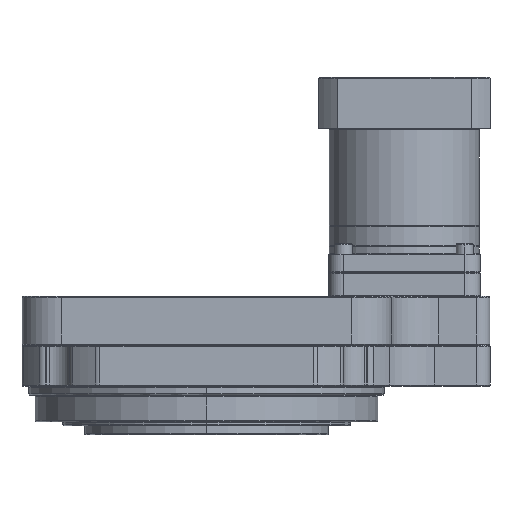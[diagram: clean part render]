
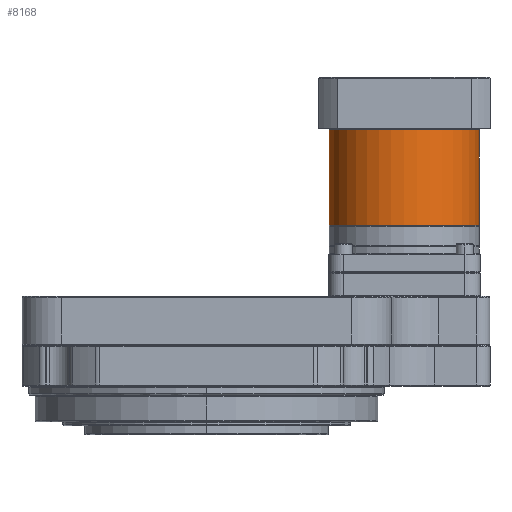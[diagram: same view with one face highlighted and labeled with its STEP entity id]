
A CAD part, left-side view. The second image highlights one B-rep face of the part: STEP entity #8168.
In plain terms, the highlighted cylindrical face has radius 57 mm (diameter 114 mm), a partial arc.
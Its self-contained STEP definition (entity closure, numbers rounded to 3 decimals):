
#5340 = CARTESIAN_POINT ( 'NONE',  ( 0., -207., 90.6 ) ) ;
#5959 = DIRECTION ( 'NONE',  ( 0., 1., 0. ) ) ;
#8168 = ADVANCED_FACE ( 'NONE', ( #48599 ), #36613, .T. ) ;
#8714 = DIRECTION ( 'NONE',  ( 0., 0., -1. ) ) ;
#11191 = CARTESIAN_POINT ( 'NONE',  ( 0., -93., 163.3 ) ) ;
#11555 = DIRECTION ( 'NONE',  ( 0., 0., -1. ) ) ;
#11557 = EDGE_CURVE ( 'NONE', #20104, #21171, #32991, .T. ) ;
#12598 = ORIENTED_EDGE ( 'NONE', *, *, #11557, .F. ) ;
#12973 = EDGE_LOOP ( 'NONE', ( #26191, #46006, #31587, #12598 ) ) ;
#14126 = DIRECTION ( 'NONE',  ( 0., 1., 0. ) ) ;
#17555 = VERTEX_POINT ( 'NONE', #11191 ) ;
#17883 = CARTESIAN_POINT ( 'NONE',  ( 0., -150., 90.6 ) ) ;
#20104 = VERTEX_POINT ( 'NONE', #35389 ) ;
#20598 = DIRECTION ( 'NONE',  ( 0., 0., -1. ) ) ;
#20926 = CIRCLE ( 'NONE', #21714, 57. ) ;
#21171 = VERTEX_POINT ( 'NONE', #26455 ) ;
#21714 = AXIS2_PLACEMENT_3D ( 'NONE', #32218, #8714, #5959 ) ;
#22206 = EDGE_CURVE ( 'NONE', #17555, #21171, #47260, .T. ) ;
#22886 = VECTOR ( 'NONE', #28478, 1000. ) ;
#24927 = VECTOR ( 'NONE', #20598, 1000. ) ;
#26191 = ORIENTED_EDGE ( 'NONE', *, *, #42182, .F. ) ;
#26455 = CARTESIAN_POINT ( 'NONE',  ( 0., -93., 90.9 ) ) ;
#26780 = DIRECTION ( 'NONE',  ( 0., 1., 0. ) ) ;
#27551 = VERTEX_POINT ( 'NONE', #30496 ) ;
#27570 = EDGE_CURVE ( 'NONE', #27551, #17555, #20926, .T. ) ;
#27982 = AXIS2_PLACEMENT_3D ( 'NONE', #17883, #47859, #14126 ) ;
#28091 = AXIS2_PLACEMENT_3D ( 'NONE', #31018, #11555, #26780 ) ;
#28478 = DIRECTION ( 'NONE',  ( 0., 0., -1. ) ) ;
#30496 = CARTESIAN_POINT ( 'NONE',  ( 0., -207., 163.3 ) ) ;
#31018 = CARTESIAN_POINT ( 'NONE',  ( 0., -150., 90.9 ) ) ;
#31587 = ORIENTED_EDGE ( 'NONE', *, *, #22206, .T. ) ;
#32218 = CARTESIAN_POINT ( 'NONE',  ( 0., -150., 163.3 ) ) ;
#32991 = CIRCLE ( 'NONE', #28091, 57. ) ;
#35389 = CARTESIAN_POINT ( 'NONE',  ( 0., -207., 90.9 ) ) ;
#36613 = CYLINDRICAL_SURFACE ( 'NONE', #27982, 57. ) ;
#39589 = LINE ( 'NONE', #5340, #24927 ) ;
#40244 = CARTESIAN_POINT ( 'NONE',  ( 0., -93., 90.6 ) ) ;
#42182 = EDGE_CURVE ( 'NONE', #27551, #20104, #39589, .T. ) ;
#46006 = ORIENTED_EDGE ( 'NONE', *, *, #27570, .T. ) ;
#47260 = LINE ( 'NONE', #40244, #22886 ) ;
#47859 = DIRECTION ( 'NONE',  ( 0., 0., -1. ) ) ;
#48599 = FACE_OUTER_BOUND ( 'NONE', #12973, .T. ) ;
